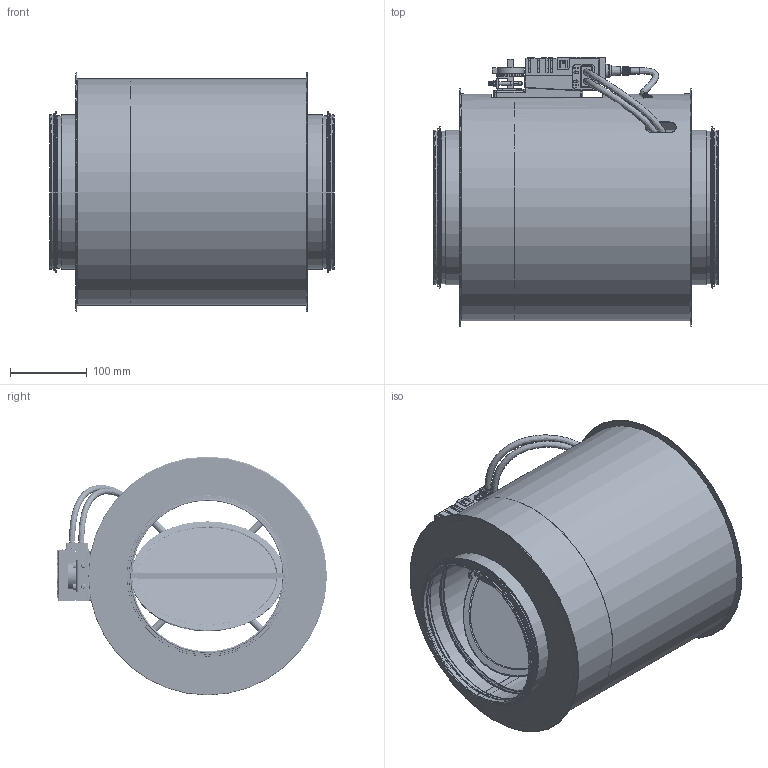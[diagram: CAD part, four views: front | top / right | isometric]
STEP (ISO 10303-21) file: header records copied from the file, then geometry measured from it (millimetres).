
FILE_DESCRIPTION (( 'STEP AP214' ), '1' );
FILE_NAME ('VAV-RI200.STEP', '2025-03-06T09:23:17', ( '' ), ( '' ), 'SwSTEP 2.0', 'SolidWorks 2025', '' );
FILE_SCHEMA (( 'AUTOMOTIVE_DESIGN' ));
Length unit declared in the file: millimetre
Products named in the file (20): Sicherungsscheibexxx_x_x; CROSS_DN200; VAV-RI200; CROSS_WING200; Isogehäuse_DN200; Dichtung_Vierkantxxx_x_x; Dichtung_innenxxx_x_x; LMV-D3-MP; Abschlusskappexxx_x_x; CROSS_PLUG; LDE_DN200; Dichtungen; BELIMO_MOTOR BRACKET_DN150-200; Label VAVR200; VSRV_Zapfen; CROSS_PIECE; DB_DN200; HOSE con^VAV-RI200; BLECHSCHRAUBE; KLAPPE200
Assembly tree (28 placements, depth 3):
  VAV-RI200
    DB_DN200
    BELIMO_MOTOR BRACKET_DN150-200
    CROSS_DN200
      CROSS_PIECE
      CROSS_WING200  x4
      CROSS_PLUG  x3
      VSRV_Zapfen
    LDE_DN200  x2
    BLECHSCHRAUBE  x3
    LMV-D3-MP
    Dichtungen  x2
      Abschlusskappexxx_x_x
      Dichtung_innenxxx_x_x
      Dichtung_Vierkantxxx_x_x
      Sicherungsscheibexxx_x_x
    KLAPPE200
    Label VAVR200
    Isogehäuse_DN200
    HOSE con^VAV-RI200
Bounding box: 370.34 x 350.62 x 310.44 mm (x, y, z)
Volume: 489252.6 mm3; surface area: 1551931.3 mm2
Topology: 32 solids, 51 shells, 6735 faces, 18165 edges, 11923 vertices
Faces by surface type: plane 2964, bspline 2472, cylinder 1039, torus 139, cone 91, sphere 30
Full cylindrical faces by diameter (mm): 0.5 x2, 1 x4, 1.911 x6, 2 x17, 2.5 x6, 3.5 x3, 4 x2, 5 x2, 5.5 x3, 6 x27, 7.5 x2, 8 x21, 11 x1, 16 x2, 20 x2, 21 x2, 21.422 x2, 23.5 x2, 25 x2, 195.845 x2, 196.74 x2, 196.745 x2, 197.4 x2, 198.3 x2, 199.14 x4, 200 x4, 200.9 x3, 201 x1, 209.74 x2, 293 x1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
Entity records: 355650 total; most frequent: CARTESIAN_POINT 160045, ORIENTED_EDGE 34117, EDGE_CURVE 17080, DIRECTION 15868, VERTEX_POINT 11359, B_SPLINE_CURVE_WITH_KNOTS 11089, EDGE_LOOP 7190, FACE_OUTER_BOUND 6564
